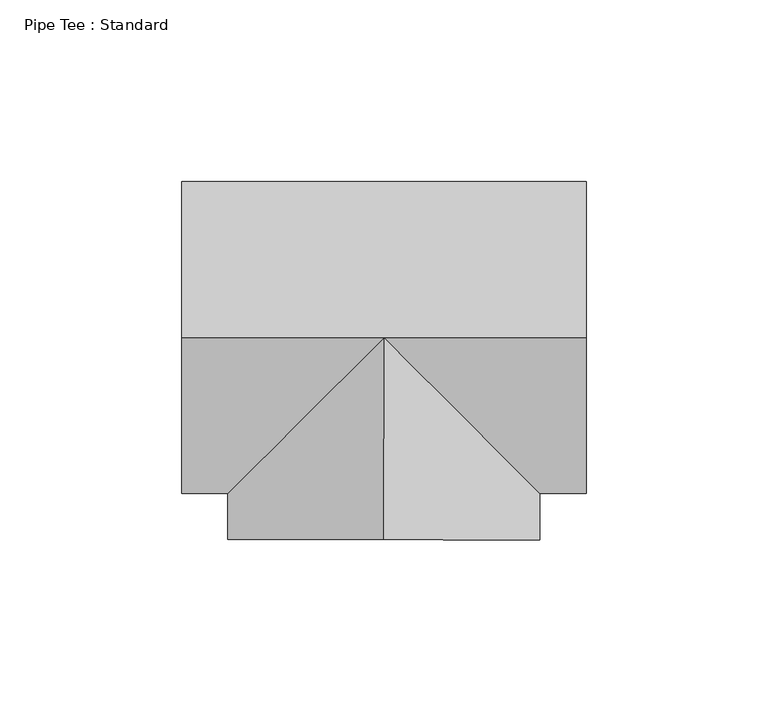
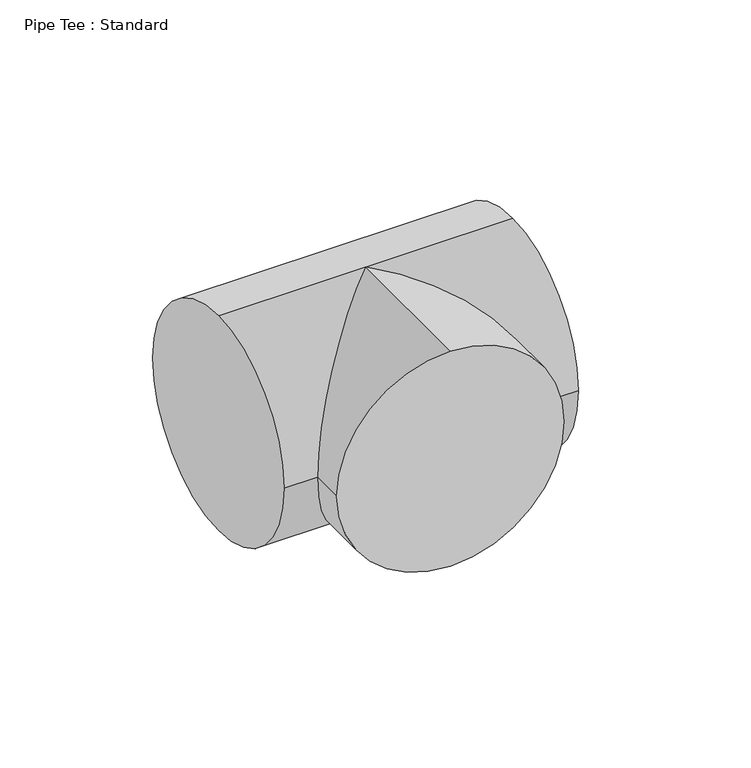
"""IFC4 building model written with IfcOpenShell, lengths in millimetres: pipe fitting geometry, Pipe Tee : Standard."""

from ifc_helpers import new_model, si_unit, frame, origin, place, context, project, spatial, circle_curve, ellipse_curve, source, transform, mapped, element, save
from ifc_brep_helpers import plane_surface, cylinder_surface, advanced_brep


def pipe_tee_standard_eb115f45(model_context):
    return source(origin(), model_context, "Body", "AdvancedBrep", [
        advanced_brep(
        [(-55.5625, 0.0, 42.8625), (-55.5625, 42.8625, 0.0), (-55.5625, 0.0, -42.8625), (-55.5625, -42.8625, 0.0), (55.5625, 0.0, 42.8625), (55.5625, -42.8625, 0.0), (55.5625, 0.0, -42.8625), (55.5625, 42.8625, 0.0), (0.0, 0.0, 42.8625), (0.0, 0.0, -42.8625), (-42.923905, -42.8625, 0.0), (42.8011829, -42.8625, 0.0), (-0.079542, -55.5624431, 42.8625), (-42.9419981, -55.5010821, 0.0), (-0.079542, -55.5624431, -42.8625), (42.7829141, -55.623804, 0.0)],
        [
            (0, 1, circle_curve(frame((-55.5625, 0.0, 0.0), z_axis=(-1.0, 0.0, 0.0), x_axis=(0.0, 1.0, 0.0)), 42.8625)),
            (1, 2, circle_curve(frame((-55.5625, 0.0, 0.0), z_axis=(-1.0, 0.0, 0.0), x_axis=(0.0, 1.0, 0.0)), 42.8625)),
            (2, 3, circle_curve(frame((-55.5625, 0.0, 0.0), z_axis=(-1.0, 0.0, 0.0), x_axis=(0.0, 1.0, 0.0)), 42.8625)),
            (3, 0, circle_curve(frame((-55.5625, 0.0, 0.0), z_axis=(-1.0, 0.0, 0.0), x_axis=(0.0, 1.0, 0.0)), 42.8625)),
            (4, 5, circle_curve(frame((55.5625, 0.0, 0.0), z_axis=(1.0, 0.0, 0.0), x_axis=(0.0, 1.0, 0.0)), 42.8625)),
            (5, 6, circle_curve(frame((55.5625, 0.0, 0.0), z_axis=(1.0, 0.0, 0.0), x_axis=(0.0, 1.0, 0.0)), 42.8625)),
            (6, 7, circle_curve(frame((55.5625, 0.0, 0.0), z_axis=(1.0, 0.0, 0.0), x_axis=(0.0, 1.0, 0.0)), 42.8625)),
            (7, 4, circle_curve(frame((55.5625, 0.0, 0.0), z_axis=(1.0, 0.0, 0.0), x_axis=(0.0, 1.0, 0.0)), 42.8625)),
            (0, 8),
            (8, 4),
            (7, 1),
            (6, 9),
            (9, 2),
            (9, 10, ellipse_curve(frame((0.0, 0.0, 0.0), z_axis=(-0.7066004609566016, 0.707612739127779, 0.0), x_axis=(-0.7076127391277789, -0.7066004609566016, 0.0)), 60.6601642, 42.8625)),
            (10, 3),
            (5, 11),
            (11, 9, ellipse_curve(frame((0.0, 0.0, 0.0), z_axis=(0.7076127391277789, 0.7066004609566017, 0.0), x_axis=(-0.7066004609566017, 0.7076127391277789, 0.0)), 60.5733866, 42.8625)),
            (10, 8, ellipse_curve(frame((0.0, 0.0, 0.0), z_axis=(-0.7066004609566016, 0.707612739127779, 0.0), x_axis=(-0.7076127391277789, -0.7066004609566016, 0.0)), 60.6601642, 42.8625)),
            (8, 11, ellipse_curve(frame((0.0, 0.0, 0.0), z_axis=(0.7076127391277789, 0.7066004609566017, 0.0), x_axis=(-0.7066004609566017, 0.7076127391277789, 0.0)), 60.5733866, 42.8625)),
            (12, 13, circle_curve(frame((-0.079542, -55.5624431, 0.0), z_axis=(-0.001431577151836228, -0.9999989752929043, 0.0), x_axis=(0.9999989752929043, -0.001431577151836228, 0.0)), 42.8625)),
            (13, 14, circle_curve(frame((-0.079542, -55.5624431, 0.0), z_axis=(-0.001431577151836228, -0.9999989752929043, 0.0), x_axis=(0.9999989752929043, -0.001431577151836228, 0.0)), 42.8625)),
            (14, 15, circle_curve(frame((-0.079542, -55.5624431, 0.0), z_axis=(-0.001431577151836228, -0.9999989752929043, 0.0), x_axis=(0.9999989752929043, -0.001431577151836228, 0.0)), 42.8625)),
            (15, 12, circle_curve(frame((-0.079542, -55.5624431, 0.0), z_axis=(-0.001431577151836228, -0.9999989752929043, 0.0), x_axis=(0.9999989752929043, -0.001431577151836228, 0.0)), 42.8625)),
            (15, 11),
            (8, 12),
            (14, 9),
            (13, 10),
        ],
        [
            plane_surface(frame((-55.5625, 0.0, 0.0), z_axis=(-1.0, 0.0, 0.0), x_axis=(0.0, 0.0, 1.0))),
            plane_surface(frame((55.5625, 0.0, 0.0), z_axis=(1.0, 0.0, 0.0), x_axis=(0.0, 0.0, 1.0))),
            cylinder_surface(frame((-55.5625, 0.0, 0.0), z_axis=(-1.0, 0.0, 0.0), x_axis=(0.0, 1.0, 0.0)), 42.8625),
            plane_surface(frame((-0.079542, -55.5624431, 0.0), z_axis=(-0.001431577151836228, -0.9999989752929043, 0.0), x_axis=(0.0, 0.0, 1.0))),
            cylinder_surface(frame((0.0, 0.0, 0.0), z_axis=(0.001431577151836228, 0.9999989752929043, 0.0), x_axis=(0.9999989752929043, -0.001431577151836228, 0.0)), 42.8625),
        ],
        [
            (0, [[1, 2, 3, 4]]),
            (1, [[5, 6, 7, 8]]),
            (2, [[-1, 9, 10, -8, 11]]),
            (2, [[-2, -11, -7, 12, 13]]),
            (2, [[-3, -13, 14, 15]]),
            (2, [[-6, 16, 17, -12]]),
            (2, [[-4, -15, 18, -9]]),
            (2, [[-5, -10, 19, -16]]),
            (3, [[20, 21, 22, 23]]),
            (4, [[-23, 24, -19, 25]]),
            (4, [[-22, 26, -17, -24]]),
            (4, [[-21, 27, -14, -26]]),
            (4, [[-20, -25, -18, -27]]),
        ],
    ),
        advanced_brep(
        [(-55.5625, 0.0, 42.8625), (-55.5625, 42.8625, 0.0), (-55.5625, 0.0, -42.8625), (-55.5625, -42.8625, 0.0), (55.5625, 0.0, 42.8625), (55.5625, -42.8625, 0.0), (55.5625, 0.0, -42.8625), (55.5625, 42.8625, 0.0), (0.0, 0.0, 42.8625), (0.0, 0.0, -42.8625), (-42.923905, -42.8625, 0.0), (42.8011829, -42.8625, 0.0), (-0.079542, -55.5624431, 42.8625), (-42.9419981, -55.5010821, 0.0), (-0.079542, -55.5624431, -42.8625), (42.7829141, -55.623804, 0.0)],
        [
            (0, 1, circle_curve(frame((-55.5625, 0.0, 0.0), z_axis=(-1.0, 0.0, 0.0), x_axis=(0.0, 1.0, 0.0)), 42.8625)),
            (1, 2, circle_curve(frame((-55.5625, 0.0, 0.0), z_axis=(-1.0, 0.0, 0.0), x_axis=(0.0, 1.0, 0.0)), 42.8625)),
            (2, 3, circle_curve(frame((-55.5625, 0.0, 0.0), z_axis=(-1.0, 0.0, 0.0), x_axis=(0.0, 1.0, 0.0)), 42.8625)),
            (3, 0, circle_curve(frame((-55.5625, 0.0, 0.0), z_axis=(-1.0, 0.0, 0.0), x_axis=(0.0, 1.0, 0.0)), 42.8625)),
            (4, 5, circle_curve(frame((55.5625, 0.0, 0.0), z_axis=(1.0, 0.0, 0.0), x_axis=(0.0, 1.0, 0.0)), 42.8625)),
            (5, 6, circle_curve(frame((55.5625, 0.0, 0.0), z_axis=(1.0, 0.0, 0.0), x_axis=(0.0, 1.0, 0.0)), 42.8625)),
            (6, 7, circle_curve(frame((55.5625, 0.0, 0.0), z_axis=(1.0, 0.0, 0.0), x_axis=(0.0, 1.0, 0.0)), 42.8625)),
            (7, 4, circle_curve(frame((55.5625, 0.0, 0.0), z_axis=(1.0, 0.0, 0.0), x_axis=(0.0, 1.0, 0.0)), 42.8625)),
            (0, 8),
            (8, 4),
            (7, 1),
            (6, 9),
            (9, 2),
            (9, 10, ellipse_curve(frame((0.0, 0.0, 0.0), z_axis=(-0.7066004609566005, 0.7076127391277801, 0.0), x_axis=(-0.70761273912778, -0.7066004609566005, 0.0)), 60.6601642, 42.8625)),
            (10, 3),
            (5, 11),
            (11, 9, ellipse_curve(frame((0.0, 0.0, 0.0), z_axis=(0.70761273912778, 0.7066004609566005, 0.0), x_axis=(-0.7066004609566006, 0.7076127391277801, 0.0)), 60.5733866, 42.8625)),
            (10, 8, ellipse_curve(frame((0.0, 0.0, 0.0), z_axis=(-0.7066004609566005, 0.7076127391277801, 0.0), x_axis=(-0.70761273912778, -0.7066004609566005, 0.0)), 60.6601642, 42.8625)),
            (8, 11, ellipse_curve(frame((0.0, 0.0, 0.0), z_axis=(0.70761273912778, 0.7066004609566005, 0.0), x_axis=(-0.7066004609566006, 0.7076127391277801, 0.0)), 60.5733866, 42.8625)),
            (12, 13, circle_curve(frame((-0.079542, -55.5624431, 0.0), z_axis=(-0.001431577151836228, -0.9999989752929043, 0.0), x_axis=(0.9999989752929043, -0.001431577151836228, 0.0)), 42.8625)),
            (13, 14, circle_curve(frame((-0.079542, -55.5624431, 0.0), z_axis=(-0.001431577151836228, -0.9999989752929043, 0.0), x_axis=(0.9999989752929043, -0.001431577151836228, 0.0)), 42.8625)),
            (14, 15, circle_curve(frame((-0.079542, -55.5624431, 0.0), z_axis=(-0.001431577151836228, -0.9999989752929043, 0.0), x_axis=(0.9999989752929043, -0.001431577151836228, 0.0)), 42.8625)),
            (15, 12, circle_curve(frame((-0.079542, -55.5624431, 0.0), z_axis=(-0.001431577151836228, -0.9999989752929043, 0.0), x_axis=(0.9999989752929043, -0.001431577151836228, 0.0)), 42.8625)),
            (15, 11),
            (8, 12),
            (14, 9),
            (13, 10),
        ],
        [
            plane_surface(frame((-55.5625, 0.0, 0.0), z_axis=(-1.0, 0.0, 0.0), x_axis=(0.0, 0.0, 1.0))),
            plane_surface(frame((55.5625, 0.0, 0.0), z_axis=(1.0, 0.0, 0.0), x_axis=(0.0, 0.0, 1.0))),
            cylinder_surface(frame((-55.5625, 0.0, 0.0), z_axis=(-1.0, 0.0, 0.0), x_axis=(0.0, 1.0, 0.0)), 42.8625),
            plane_surface(frame((-0.079542, -55.5624431, 0.0), z_axis=(-0.001431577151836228, -0.9999989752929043, 0.0), x_axis=(0.0, 0.0, 1.0))),
            cylinder_surface(frame((0.0, 0.0, 0.0), z_axis=(0.001431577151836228, 0.9999989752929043, 0.0), x_axis=(0.9999989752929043, -0.001431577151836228, 0.0)), 42.8625),
        ],
        [
            (0, [[1, 2, 3, 4]]),
            (1, [[5, 6, 7, 8]]),
            (2, [[-1, 9, 10, -8, 11]]),
            (2, [[-2, -11, -7, 12, 13]]),
            (2, [[-3, -13, 14, 15]]),
            (2, [[-6, 16, 17, -12]]),
            (2, [[-4, -15, 18, -9]]),
            (2, [[-5, -10, 19, -16]]),
            (3, [[20, 21, 22, 23]]),
            (4, [[-23, 24, -19, 25]]),
            (4, [[-22, 26, -17, -24]]),
            (4, [[-21, 27, -14, -26]]),
            (4, [[-20, -25, -18, -27]]),
        ],
    ),
    ])


if __name__ == "__main__":
    model = new_model("IFC4")
    model_context = context("Model", 3, world=origin())
    ifc_project = project(units=[si_unit("LENGTHUNIT", "METRE", prefix="MILLI")], contexts=[model_context])
    site = spatial("IfcSite", under=ifc_project)
    building = spatial("IfcBuilding", under=site)
    placement = place(None, origin())
    pipe_tee_standard_shape = pipe_tee_standard_eb115f45(model_context)
    element("IfcPipeFitting", 1, ObjectType="Pipe Tee : Standard", at=placement, inside=building, context=model_context, shape_type="MappedRepresentation", body=[
        mapped(pipe_tee_standard_shape, transform((0.0, 0.0, 0.0), x_axis=(1.0, 0.0, 0.0), y_axis=(0.0, 1.0, 0.0), z_axis=(0.0, 0.0, 1.0))),
    ])
    save(model, "model.ifc")
